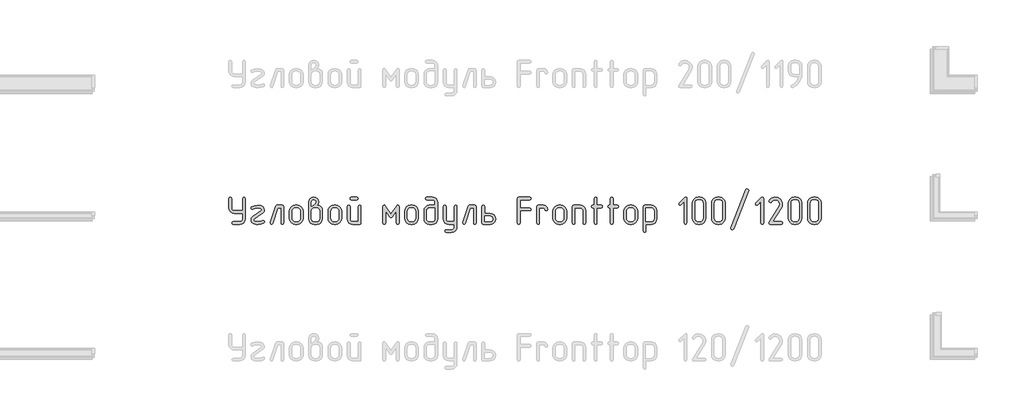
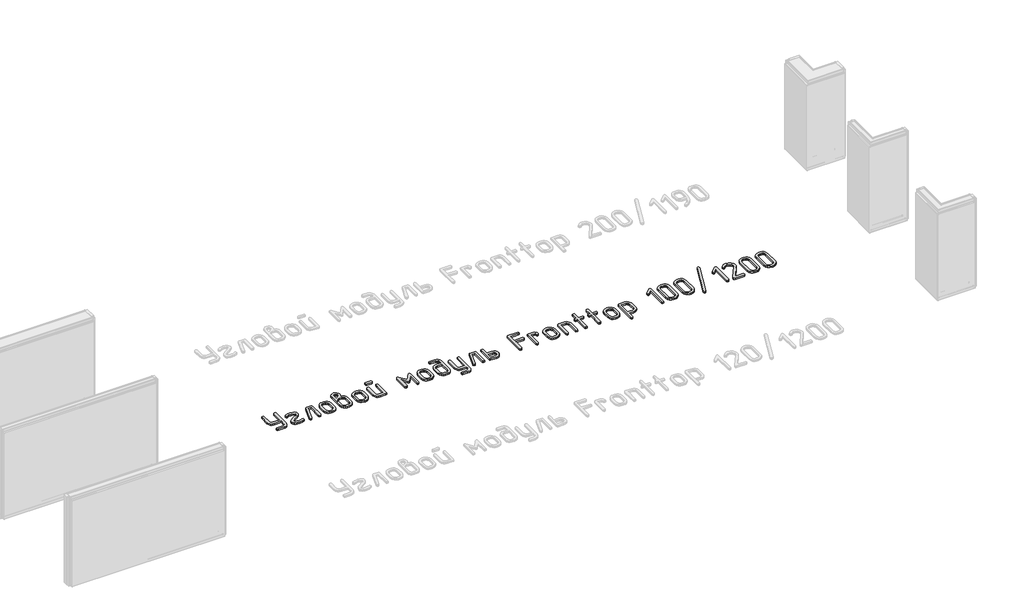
# One storey, part 26 of 37: 1 proxy.
"""IFC4 building model written with IfcOpenShell, lengths in millimetres."""

from ifc_helpers import new_model, si_unit, origin, origin_with_axes, place, context, project, spatial, polyline, outline, extrude, element, save

model = new_model("IFC4")

# Units and contexts
model_context = context("Model", 3, world=origin())
ifc_project = project(units=[si_unit("LENGTHUNIT", "METRE", prefix="MILLI")], contexts=[model_context])

# Site, building, storey
site = spatial("IfcSite", under=ifc_project)
building = spatial("IfcBuilding", under=site)
storey = spatial("IfcBuildingStorey", under=building, Name="Этаж 01", Elevation=0.0)

# Proxy
placement = place(None, origin())
element("IfcBuildingElementProxy", 1, Name="300 мм ГОСТ 2.304", ObjectType="300 мм ГОСТ 2.304", at=placement, inside=storey, context=model_context, shape_type="SweptSolid", body=[
    extrude(outline(polyline([(64282.5947081, -31108.7261154), (64192.9398643, -31108.7261154), (64169.869135, -31104.3522505), (64150.5152523, -31091.2306559), (64137.3936577, -31071.8767732), (64133.0197928, -31048.8060439), (64133.0197928, -30944.2838139), (64137.4124296, -30933.1332743), (64148.3377058, -30928.9659009), (64158.6247356, -30932.9080109), (64163.205092, -30944.2838139), (64163.205092, -31048.8060439), (64165.3357086, -31060.4540402), (64171.7275583, -31070.0183499), (64181.2918679, -31076.4101996), (64192.9398643, -31078.5408162), (64282.5947081, -31078.5408162), (64282.5947081, -30944.2838139), (64286.949801, -30933.1332743), (64297.4620942, -30928.9659009), (64307.9368436, -30932.9080109), (64312.3294804, -30944.2838139), (64312.3294804, -31168.19566), (64307.9556155, -31191.6042844), (64294.8340209, -31211.0707988), (64275.8180333, -31223.8544983), (64252.8599358, -31228.1157314), (64178.0724781, -31228.1157314), (64167.147202, -31223.7606385), (64163.205092, -31213.2483453), (64166.9219385, -31202.736052), (64178.0724781, -31198.3809591), (64252.8599358, -31198.3809591), (64264.2263528, -31196.1940267), (64273.8469783, -31189.6332294), (64280.4077756, -31179.8999722), (64282.5947081, -31168.19566), (64282.5947081, -31108.7261154)])), origin_with_axes(), (0.0, 0.0, 1.0), 20.0),
    extrude(outline(polyline([(64514.9914765, -31214.524838), (64485.4444237, -31225.0746752), (64451.6173658, -31228.5662583), (64430.8180428, -31227.4774851), (64413.0973199, -31224.5866044), (64396.8408093, -31219.4524755), (64384.8643037, -31209.3062353), (64377.4869265, -31195.6496401), (64375.0278008, -31179.984446), (64378.9699108, -31160.7619669), (64391.2467675, -31144.618088), (64486.5331969, -31078.991343), (64491.4139045, -31069.8306304), (64487.5844263, -31060.4071103), (64476.0959915, -31054.0621905), (64442.3815653, -31049.7070976), (64416.2510079, -31052.4290307), (64397.32888, -31060.5948299), (64388.1681673, -31064.1239569), (64377.693418, -31059.5436005), (64373.3007812, -31048.355517), (64379.4579815, -31037.0172579), (64408.0664367, -31024.777945), (64445.0096386, -31020.4228521), (64450.2657853, -31020.4228521), (64479.1370478, -31023.9144352), (64501.85111, -31033.7509382), (64516.7184961, -31049.0313073), (64521.9746427, -31068.9295767), (64517.7134096, -31086.6315276), (64504.9297101, -31102.193476), (64409.5681929, -31168.19566), (64404.3871341, -31179.6090069), (64408.1039806, -31189.8584928), (64417.9029396, -31195.7528858), (64434.3096259, -31197.5174493), (64451.9928049, -31198.3809591), (64478.4612575, -31196.2034127), (64501.0251441, -31187.8686659), (64508.4588371, -31186.1416463), (64519.1588499, -31190.7220026), (64523.3262233, -31201.9100861), (64521.2425366, -31209.1936036), (64514.9914765, -31214.524838)])), origin_with_axes(), (0.0, 0.0, 1.0), 20.0),
    extrude(outline(polyline([(64734.3229662, -31213.2483453), (64730.1555928, -31224.3988849), (64719.45558, -31228.1157314), (64708.9432868, -31224.1736215), (64704.5881939, -31213.2483453), (64704.5881939, -31048.8060439), (64670.0478018, -31048.8060439), (64614.0322964, -31218.0539651), (64608.5884303, -31225.4876581), (64600.5164908, -31228.1157314), (64589.7789341, -31224.1736215), (64585.1985778, -31213.6988721), (64586.0996315, -31208.4427255), (64645.1186493, -31029.133038), (64650.4498837, -31021.5867132), (64659.5355086, -31019.0712716), (64719.45558, -31019.0712716), (64730.6061197, -31022.7881181), (64734.3229662, -31033.9386577), (64734.3229662, -31213.2483453)])), origin_with_axes(), (0.0, 0.0, 1.0), 20.0),
    extrude(outline(polyline([(64945.7702359, -31162.4889865), (64940.9646162, -31187.9812976), (64926.5477569, -31209.3437792), (64905.5231704, -31223.4227434), (64880.143491, -31228.1157314), (64862.1975047, -31228.1157314), (64836.7615094, -31223.4227434), (64815.4177998, -31209.3437792), (64801.0009405, -31187.9812976), (64796.1953207, -31162.4889865), (64796.1953207, -31084.6980165), (64801.0009405, -31059.5436005), (64815.4177998, -31038.2937506), (64837.1744924, -31023.8768913), (64862.1975047, -31019.0712716), (64880.143491, -31019.0712716), (64905.288521, -31023.8862773), (64926.510213, -31038.3312945), (64940.9552302, -31059.5529865), (64945.7702359, -31084.6980165), (64945.7702359, -31162.4889865)]), holes=[polyline([(64916.0354636, -31162.4889865), (64916.0354636, -31084.6980165), (64913.4073903, -31070.9194036), (64905.5231704, -31059.3183371), (64893.9221039, -31051.4341172), (64880.143491, -31048.8060439), (64862.1975047, -31048.8060439), (64848.4282777, -31051.4341172), (64836.8553692, -31059.3183371), (64828.9993072, -31070.9194036), (64826.3806199, -31084.6980165), (64826.3806199, -31162.4889865), (64828.9993072, -31176.2675994), (64836.8553692, -31187.8686659), (64848.4282777, -31195.7528858), (64862.1975047, -31198.3809591), (64880.143491, -31198.3809591), (64893.9221039, -31195.7528858), (64905.5231704, -31187.8686659), (64913.4073903, -31176.2675994), (64916.0354636, -31162.4889865)])]), origin_with_axes(), (0.0, 0.0, 1.0), 20.0),
    extrude(outline(polyline([(65097.2974342, -31019.9723253), (65122.7897453, -31024.2335584), (65142.3501195, -31037.0172579), (65153.5006592, -31055.057104), (65157.2175057, -31078.5408162), (65157.2175057, -31168.19566), (65152.8436408, -31191.6042844), (65139.7220462, -31211.0707988), (65120.5934269, -31223.8544983), (65097.2974342, -31228.1157314), (65067.5626619, -31228.1157314), (65044.4919326, -31223.8544983), (65025.1380499, -31211.0707988), (65012.0164553, -31191.6042844), (65007.6425905, -31168.19566), (65007.6425905, -30983.2543867), (65011.9038236, -30960.3901489), (65024.6875231, -30942.5567943), (65041.4133325, -30932.3636243), (65061.8559884, -30928.9659009), (65081.9607493, -30932.3636243), (65098.573927, -30942.5567943), (65111.0760472, -30960.2775172), (65115.2434206, -30982.8038599), (65111.0760472, -31004.8421318), (65097.2974342, -31019.9723253)]), holes=[polyline([(65127.4827334, -31168.19566), (65127.4827334, -31078.5408162), (65125.295801, -31067.1743991), (65118.7350037, -31057.5537736), (65109.0017464, -31050.9929763), (65097.2974342, -31048.8060439), (65067.5626619, -31048.8060439), (65055.9146656, -31050.9929763), (65046.3503559, -31057.5537736), (65039.9585062, -31067.1743991), (65037.8278896, -31078.5408162), (65037.8278896, -31168.19566), (65039.9585062, -31179.8999722), (65046.3503559, -31189.6332294), (65055.9146656, -31196.1940267), (65067.5626619, -31198.3809591), (65097.2974342, -31198.3809591), (65109.0017464, -31196.1940267), (65118.7350037, -31189.6332294), (65125.295801, -31179.8999722), (65127.4827334, -31168.19566)]), polyline([(65037.8278896, -31029.133038), (65044.8110558, -31025.0032085), (65050.0672025, -31021.248818), (65060.1289688, -31014.0403884), (65067.5626619, -31008.5589783), (65079.8019748, -30997.671246), (65085.5086482, -30983.2543867), (65083.7065408, -30973.1644624), (65078.3002186, -30965.7213834), (65070.4723145, -30961.1316411), (65061.4054616, -30959.601727), (65052.4512404, -30961.1316411), (65044.8110558, -30965.7213834), (65039.5736812, -30973.1644624), (65037.8278896, -30983.2543867), (65037.8278896, -31029.133038)])]), origin_with_axes(), (0.0, 0.0, 1.0), 20.0),
    extrude(outline(polyline([(65368.6647755, -31162.4889865), (65363.8591557, -31187.9812976), (65349.4422964, -31209.3437792), (65328.4177099, -31223.4227434), (65303.0380305, -31228.1157314), (65285.0920442, -31228.1157314), (65259.6560489, -31223.4227434), (65238.3123393, -31209.3437792), (65223.89548, -31187.9812976), (65219.0898602, -31162.4889865), (65219.0898602, -31084.6980165), (65223.89548, -31059.5436005), (65238.3123393, -31038.2937506), (65260.0690319, -31023.8768913), (65285.0920442, -31019.0712716), (65303.0380305, -31019.0712716), (65328.1830605, -31023.8862773), (65349.4047525, -31038.3312945), (65363.8497697, -31059.5529865), (65368.6647755, -31084.6980165), (65368.6647755, -31162.4889865)]), holes=[polyline([(65338.9300032, -31162.4889865), (65338.9300032, -31084.6980165), (65336.3019298, -31070.9194036), (65328.4177099, -31059.3183371), (65316.8166434, -31051.4341172), (65303.0380305, -31048.8060439), (65285.0920442, -31048.8060439), (65271.3228172, -31051.4341172), (65259.7499087, -31059.3183371), (65251.8938467, -31070.9194036), (65249.2751594, -31084.6980165), (65249.2751594, -31162.4889865), (65251.8938467, -31176.2675994), (65259.7499087, -31187.8686659), (65271.3228172, -31195.7528858), (65285.0920442, -31198.3809591), (65303.0380305, -31198.3809591), (65316.8166434, -31195.7528858), (65328.4177099, -31187.8686659), (65336.3019298, -31176.2675994), (65338.9300032, -31162.4889865)])]), origin_with_axes(), (0.0, 0.0, 1.0), 20.0),
    extrude(outline(polyline([(65535.5098868, -30959.1512001), (65475.5898153, -30959.1512001), (65464.6645391, -30954.7961072), (65460.7224291, -30944.2838139), (65464.4392757, -30933.5838012), (65475.5898153, -30928.9659009), (65535.5098868, -30928.9659009), (65546.6604264, -30933.3585378), (65550.3772729, -30944.2838139), (65546.4351629, -30954.5708438), (65535.5098868, -30959.1512001)])), origin_with_axes(), (0.0, 0.0, 1.0), 20.0),
    extrude(outline(polyline([(65580.1120452, -31213.2483453), (65576.3951987, -31224.3988849), (65565.2446591, -31228.1157314), (65490.4572014, -31228.1157314), (65467.3864722, -31223.8544983), (65448.0325894, -31211.0707988), (65434.9109948, -31191.6042844), (65430.53713, -31168.19566), (65430.53713, -31033.9386577), (65434.9297668, -31023.0133815), (65445.855043, -31019.0712716), (65456.1420728, -31022.7881181), (65460.7224291, -31033.9386577), (65460.7224291, -31168.19566), (65462.8530457, -31179.8999722), (65469.2448954, -31189.6332294), (65478.8092051, -31196.1940267), (65490.4572014, -31198.3809591), (65550.3772729, -31198.3809591), (65550.3772729, -31033.9386577), (65554.7323658, -31023.0133815), (65565.2446591, -31019.0712716), (65575.7194084, -31022.7881181), (65580.1120452, -31033.9386577), (65580.1120452, -31213.2483453)])), origin_with_axes(), (0.0, 0.0, 1.0), 20.0),
    extrude(outline(polyline([(65999.1020187, -31213.2483453), (65994.7093818, -31224.1736215), (65984.2346325, -31228.1157314), (65973.4970758, -31224.3988849), (65969.3672464, -31213.2483453), (65969.3672464, -31080.2678358), (65921.6864877, -31147.2461613), (65915.5480594, -31153.1030104), (65909.4471749, -31155.0552934), (65903.121027, -31153.1030104), (65897.207862, -31147.2461613), (65849.9776303, -31080.2678358), (65849.9776303, -31213.2483453), (65845.3972739, -31224.1736215), (65835.1102441, -31228.1157314), (65823.9597045, -31224.3988849), (65819.7923311, -31213.2483453), (65819.7923311, -31033.9386577), (65823.5091776, -31021.0235546), (65832.9326977, -31016.4431983), (65840.666742, -31018.6395167), (65847.349557, -31025.2284719), (65909.4471749, -31112.6306814), (65971.9953197, -31025.2284719), (65978.7532225, -31018.6395167), (65985.9616521, -31016.4431983), (65995.3851721, -31021.0235546), (65999.1020187, -31033.9386577), (65999.1020187, -31213.2483453)])), origin_with_axes(), (0.0, 0.0, 1.0), 20.0),
    extrude(outline(polyline([(66209.6482347, -31162.4889865), (66204.8426149, -31187.9812976), (66190.4257556, -31209.3437792), (66169.4011692, -31223.4227434), (66144.0214898, -31228.1157314), (66126.0755035, -31228.1157314), (66100.6395082, -31223.4227434), (66079.2957985, -31209.3437792), (66064.8789392, -31187.9812976), (66060.0733195, -31162.4889865), (66060.0733195, -31084.6980165), (66064.8789392, -31059.5436005), (66079.2957985, -31038.2937506), (66101.0524911, -31023.8768913), (66126.0755035, -31019.0712716), (66144.0214898, -31019.0712716), (66169.1665198, -31023.8862773), (66190.3882117, -31038.3312945), (66204.833229, -31059.5529865), (66209.6482347, -31084.6980165), (66209.6482347, -31162.4889865)]), holes=[polyline([(66179.9134624, -31162.4889865), (66179.9134624, -31084.6980165), (66177.2853891, -31070.9194036), (66169.4011692, -31059.3183371), (66157.8001027, -31051.4341172), (66144.0214898, -31048.8060439), (66126.0755035, -31048.8060439), (66112.3062765, -31051.4341172), (66100.733368, -31059.3183371), (66092.877306, -31070.9194036), (66090.2586186, -31084.6980165), (66090.2586186, -31162.4889865), (66092.877306, -31176.2675994), (66100.733368, -31187.8686659), (66112.3062765, -31195.7528858), (66126.0755035, -31198.3809591), (66144.0214898, -31198.3809591), (66157.8001027, -31195.7528858), (66169.4011692, -31187.8686659), (66177.2853891, -31176.2675994), (66179.9134624, -31162.4889865)])]), origin_with_axes(), (0.0, 0.0, 1.0), 20.0),
    extrude(outline(polyline([(66391.3607322, -31019.0712716), (66391.3607322, -30988.8859724), (66389.1737997, -30977.2379761), (66382.6130024, -30967.6736664), (66372.8797452, -30961.2818167), (66361.175433, -30959.1512001), (66301.7058884, -30959.1512001), (66290.7806122, -30954.7961072), (66286.8385022, -30944.2838139), (66290.5553488, -30933.5838012), (66301.7058884, -30928.9659009), (66361.175433, -30928.9659009), (66384.4714257, -30933.3397658), (66403.600045, -30946.4613604), (66416.7216396, -30965.8152431), (66421.0955045, -30988.8859724), (66421.0955045, -31168.19566), (66416.7216396, -31191.6042844), (66403.600045, -31211.0707988), (66384.4714257, -31223.8544983), (66361.175433, -31228.1157314), (66331.4406607, -31228.1157314), (66308.3699314, -31223.8544983), (66289.0160487, -31211.0707988), (66275.8944541, -31191.6042844), (66271.5205892, -31168.19566), (66271.5205892, -31078.5408162), (66275.8944541, -31055.8079821), (66289.0160487, -31036.566731), (66308.3699314, -31023.4451364), (66331.4406607, -31019.0712716), (66391.3607322, -31019.0712716)]), holes=[polyline([(66391.3607322, -31048.8060439), (66331.4406607, -31048.8060439), (66319.7926643, -31050.9929763), (66310.2283547, -31057.5537736), (66303.836505, -31067.1743991), (66301.7058884, -31078.5408162), (66301.7058884, -31168.19566), (66303.836505, -31179.8999722), (66310.2283547, -31189.6332294), (66319.7926643, -31196.1940267), (66331.4406607, -31198.3809591), (66361.175433, -31198.3809591), (66372.8797452, -31196.1940267), (66382.6130024, -31189.6332294), (66389.1737997, -31179.8999722), (66391.3607322, -31168.19566), (66391.3607322, -31048.8060439)])]), origin_with_axes(), (0.0, 0.0, 1.0), 20.0),
    extrude(outline(polyline([(66602.8080019, -31228.1157314), (66542.8879304, -31228.1157314), (66519.8172012, -31223.8544983), (66500.4633184, -31211.0707988), (66487.3417238, -31191.6042844), (66482.967859, -31168.19566), (66482.967859, -31033.9386577), (66487.3604958, -31023.0133815), (66498.285772, -31019.0712716), (66508.5728018, -31022.7881181), (66513.1531581, -31033.9386577), (66513.1531581, -31168.19566), (66515.2837747, -31179.8999722), (66521.6756244, -31189.6332294), (66531.2399341, -31196.1940267), (66542.8879304, -31198.3809591), (66602.8080019, -31198.3809591), (66602.8080019, -31033.9386577), (66607.1630948, -31023.0133815), (66617.6753881, -31019.0712716), (66628.1501374, -31022.7881181), (66632.5427742, -31033.9386577), (66632.5427742, -31257.8505038), (66628.2815411, -31281.1464965), (66615.4978416, -31300.2751158), (66596.0313272, -31313.3967104), (66572.6227028, -31317.7705752), (66513.1531581, -31317.7705752), (66502.2278819, -31313.3779384), (66498.285772, -31302.9031891), (66502.0026185, -31292.3908958), (66513.1531581, -31288.0358029), (66572.6227028, -31288.0358029), (66584.327015, -31285.8488705), (66594.0602722, -31279.2880732), (66600.6210695, -31269.554816), (66602.8080019, -31257.8505038), (66602.8080019, -31228.1157314)])), origin_with_axes(), (0.0, 0.0, 1.0), 20.0),
    extrude(outline(polyline([(66843.990044, -31213.2483453), (66839.8226706, -31224.3988849), (66829.1226578, -31228.1157314), (66818.6103646, -31224.1736215), (66814.2552717, -31213.2483453), (66814.2552717, -31048.8060439), (66779.7148796, -31048.8060439), (66723.6993742, -31218.0539651), (66718.255508, -31225.4876581), (66710.1835686, -31228.1157314), (66699.4460119, -31224.1736215), (66694.8656556, -31213.6988721), (66695.7667093, -31208.4427255), (66754.7857271, -31029.133038), (66760.1169615, -31021.5867132), (66769.2025864, -31019.0712716), (66829.1226578, -31019.0712716), (66840.2731974, -31022.7881181), (66843.990044, -31033.9386577), (66843.990044, -31213.2483453)])), origin_with_axes(), (0.0, 0.0, 1.0), 20.0),
    extrude(outline(polyline([(66936.0476976, -31108.7261154), (66995.5172423, -31108.7261154), (67021.0095534, -31113.3252436), (67040.5699276, -31127.1226285), (67051.7204672, -31145.4628258), (67055.4373137, -31168.19566), (67051.8330989, -31190.9472661), (67041.0204544, -31209.3437792), (67021.1221851, -31223.4227434), (66995.5172423, -31228.1157314), (66921.1803115, -31228.1157314), (66909.6918767, -31224.3988849), (66905.8623985, -31213.2483453), (66905.8623985, -31033.9386577), (66910.2550353, -31023.0133815), (66921.1803115, -31019.0712716), (66931.4673413, -31022.7881181), (66936.0476976, -31033.9386577), (66936.0476976, -31108.7261154)]), holes=[polyline([(66936.0476976, -31138.4608877), (66936.0476976, -31198.3809591), (66995.5172423, -31198.3809591), (67008.3009417, -31196.1377108), (67017.8183215, -31189.407966), (67023.7314864, -31179.6183929), (67025.7025414, -31168.19566), (67023.8441182, -31157.1577521), (67018.2688483, -31147.6216003), (67008.6388369, -31140.7510658), (66995.5172423, -31138.4608877), (66936.0476976, -31138.4608877)])]), origin_with_axes(), (0.0, 0.0, 1.0), 20.0),
    extrude(outline(polyline([(67325.3028988, -31048.355517), (67429.8251287, -31048.355517), (67440.9756683, -31052.5228904), (67444.6925149, -31063.2229032), (67440.7504049, -31073.9604598), (67429.8251287, -31078.5408162), (67325.3028988, -31078.5408162), (67325.3028988, -31213.2483453), (67321.1355254, -31224.3988849), (67310.4355126, -31228.1157314), (67299.697956, -31224.1736215), (67295.1175996, -31213.2483453), (67295.1175996, -30944.2838139), (67298.9470779, -30932.7953792), (67310.4355126, -30928.9659009), (67429.8251287, -30928.9659009), (67440.9756683, -30933.3585378), (67444.6925149, -30944.2838139), (67440.7504049, -30954.5708438), (67429.8251287, -30959.1512001), (67325.3028988, -30959.1512001), (67325.3028988, -31048.355517)])), origin_with_axes(), (0.0, 0.0, 1.0), 20.0),
    extrude(outline(polyline([(67626.4050123, -31063.67343), (67622.2376389, -31074.8239697), (67611.5376262, -31078.5408162), (67600.8000695, -31074.5987062), (67596.2197132, -31063.67343), (67592.0523398, -31053.1986807), (67581.352327, -31048.8060439), (67536.7501685, -31048.8060439), (67536.7501685, -31213.2483453), (67532.5827951, -31224.3988849), (67521.8827824, -31228.1157314), (67511.1452257, -31224.1736215), (67506.5648694, -31213.2483453), (67506.5648694, -31033.9386577), (67510.3943476, -31022.7881181), (67521.8827824, -31019.0712716), (67581.352327, -31019.0712716), (67598.8477865, -31022.5628547), (67613.3021897, -31032.1740942), (67622.9134292, -31046.403234), (67626.4050123, -31063.67343)])), origin_with_axes(), (0.0, 0.0, 1.0), 20.0),
    extrude(outline(polyline([(67833.947716, -31162.4889865), (67829.1420963, -31187.9812976), (67814.7252369, -31209.3437792), (67793.7006505, -31223.4227434), (67768.3209711, -31228.1157314), (67750.3749848, -31228.1157314), (67724.9389895, -31223.4227434), (67703.5952798, -31209.3437792), (67689.1784205, -31187.9812976), (67684.3728008, -31162.4889865), (67684.3728008, -31084.6980165), (67689.1784205, -31059.5436005), (67703.5952798, -31038.2937506), (67725.3519725, -31023.8768913), (67750.3749848, -31019.0712716), (67768.3209711, -31019.0712716), (67793.4660011, -31023.8862773), (67814.687693, -31038.3312945), (67829.1327103, -31059.5529865), (67833.947716, -31084.6980165), (67833.947716, -31162.4889865)]), holes=[polyline([(67804.2129437, -31162.4889865), (67804.2129437, -31084.6980165), (67801.5848704, -31070.9194036), (67793.7006505, -31059.3183371), (67782.099584, -31051.4341172), (67768.3209711, -31048.8060439), (67750.3749848, -31048.8060439), (67736.6057578, -31051.4341172), (67725.0328493, -31059.3183371), (67717.1767873, -31070.9194036), (67714.5580999, -31084.6980165), (67714.5580999, -31162.4889865), (67717.1767873, -31176.2675994), (67725.0328493, -31187.8686659), (67736.6057578, -31195.7528858), (67750.3749848, -31198.3809591), (67768.3209711, -31198.3809591), (67782.099584, -31195.7528858), (67793.7006505, -31187.8686659), (67801.5848704, -31176.2675994), (67804.2129437, -31162.4889865)])]), origin_with_axes(), (0.0, 0.0, 1.0), 20.0),
    extrude(outline(polyline([(68045.3949858, -31213.2483453), (68041.2276124, -31224.3988849), (68030.5275996, -31228.1157314), (68020.0153064, -31224.1736215), (68015.6602135, -31213.2483453), (68015.6602135, -31078.5408162), (68013.473281, -31067.1743991), (68006.9124837, -31057.5537736), (67997.1792265, -31050.9929763), (67985.4749143, -31048.8060439), (67926.0053697, -31048.8060439), (67926.0053697, -31213.2483453), (67921.8379963, -31224.3988849), (67911.1379835, -31228.1157314), (67900.4004269, -31224.1736215), (67895.8200705, -31213.2483453), (67895.8200705, -31033.9386577), (67899.6495488, -31022.7881181), (67911.1379835, -31019.0712716), (67985.4749143, -31019.0712716), (68008.770907, -31023.3325047), (68027.8995263, -31036.1162042), (68041.0211209, -31055.4700869), (68045.3949858, -31078.5408162), (68045.3949858, -31213.2483453)])), origin_with_axes(), (0.0, 0.0, 1.0), 20.0),
    extrude(outline(polyline([(68167.1874117, -31019.0712716), (68212.2400971, -31019.0712716), (68223.3906367, -31023.238645), (68227.1074832, -31033.9386577), (68223.1653733, -31044.2256875), (68212.2400971, -31048.8060439), (68167.1874117, -31048.8060439), (68167.1874117, -31213.2483453), (68163.0200384, -31224.3988849), (68152.3200256, -31228.1157314), (68141.8077324, -31224.1736215), (68137.4526394, -31213.2483453), (68137.4526394, -31048.8060439), (68122.5852533, -31048.8060439), (68111.4347137, -31044.450951), (68107.2673403, -31033.9386577), (68111.2094502, -31023.4639084), (68122.5852533, -31019.0712716), (68137.4526394, -31019.0712716), (68137.4526394, -30944.2838139), (68141.8077324, -30933.1332743), (68152.3200256, -30928.9659009), (68162.7947749, -30932.9080109), (68167.1874117, -30944.2838139), (68167.1874117, -31019.0712716)])), origin_with_axes(), (0.0, 0.0, 1.0), 20.0),
    extrude(outline(polyline([(68344.9953431, -31019.0712716), (68390.0480284, -31019.0712716), (68401.1985681, -31023.238645), (68404.9154146, -31033.9386577), (68400.9733046, -31044.2256875), (68390.0480284, -31048.8060439), (68344.9953431, -31048.8060439), (68344.9953431, -31213.2483453), (68340.8279697, -31224.3988849), (68330.127957, -31228.1157314), (68319.6156637, -31224.1736215), (68315.2605708, -31213.2483453), (68315.2605708, -31048.8060439), (68300.3931847, -31048.8060439), (68289.2426451, -31044.450951), (68285.0752717, -31033.9386577), (68289.0173816, -31023.4639084), (68300.3931847, -31019.0712716), (68315.2605708, -31019.0712716), (68315.2605708, -30944.2838139), (68319.6156637, -30933.1332743), (68330.127957, -30928.9659009), (68340.6027063, -30932.9080109), (68344.9953431, -30944.2838139), (68344.9953431, -31019.0712716)])), origin_with_axes(), (0.0, 0.0, 1.0), 20.0),
    extrude(outline(polyline([(68612.4581183, -31162.4889865), (68607.6524985, -31187.9812976), (68593.2356392, -31209.3437792), (68572.2110527, -31223.4227434), (68546.8313734, -31228.1157314), (68528.885387, -31228.1157314), (68503.4493918, -31223.4227434), (68482.1056821, -31209.3437792), (68467.6888228, -31187.9812976), (68462.883203, -31162.4889865), (68462.883203, -31084.6980165), (68467.6888228, -31059.5436005), (68482.1056821, -31038.2937506), (68503.8623747, -31023.8768913), (68528.885387, -31019.0712716), (68546.8313734, -31019.0712716), (68571.9764033, -31023.8862773), (68593.1980953, -31038.3312945), (68607.6431126, -31059.5529865), (68612.4581183, -31084.6980165), (68612.4581183, -31162.4889865)]), holes=[polyline([(68582.723346, -31162.4889865), (68582.723346, -31084.6980165), (68580.0952727, -31070.9194036), (68572.2110527, -31059.3183371), (68560.6099863, -31051.4341172), (68546.8313734, -31048.8060439), (68528.885387, -31048.8060439), (68515.1161601, -31051.4341172), (68503.5432515, -31059.3183371), (68495.6871895, -31070.9194036), (68493.0685022, -31084.6980165), (68493.0685022, -31162.4889865), (68495.6871895, -31176.2675994), (68503.5432515, -31187.8686659), (68515.1161601, -31195.7528858), (68528.885387, -31198.3809591), (68546.8313734, -31198.3809591), (68560.6099863, -31195.7528858), (68572.2110527, -31187.8686659), (68580.0952727, -31176.2675994), (68582.723346, -31162.4889865)])]), origin_with_axes(), (0.0, 0.0, 1.0), 20.0),
    extrude(outline(polyline([(68704.515772, -31228.1157314), (68704.515772, -31302.9031891), (68700.3483986, -31314.0537287), (68689.6483858, -31317.7705752), (68678.9108291, -31313.8284653), (68674.3304728, -31302.9031891), (68674.3304728, -31033.9386577), (68678.1599511, -31022.7881181), (68689.6483858, -31019.0712716), (68763.9853166, -31019.0712716), (68787.2813093, -31023.3325047), (68806.4099286, -31036.1162042), (68819.5315232, -31055.4700869), (68823.9053881, -31078.5408162), (68823.9053881, -31168.19566), (68819.5315232, -31191.6042844), (68806.4099286, -31211.0707988), (68787.2813093, -31223.8544983), (68763.9853166, -31228.1157314), (68704.515772, -31228.1157314)]), holes=[polyline([(68704.515772, -31198.3809591), (68763.9853166, -31198.3809591), (68775.6896288, -31196.1940267), (68785.422886, -31189.6332294), (68791.9836833, -31179.8999722), (68794.1706157, -31168.19566), (68794.1706157, -31078.5408162), (68791.9836833, -31067.1743991), (68785.422886, -31057.5537736), (68775.6896288, -31050.9929763), (68763.9853166, -31048.8060439), (68704.515772, -31048.8060439), (68704.515772, -31198.3809591)])]), origin_with_axes(), (0.0, 0.0, 1.0), 20.0),
    extrude(outline(polyline([(69153.2405177, -31213.2483453), (69149.0731443, -31224.3988849), (69138.3731316, -31228.1157314), (69128.0861018, -31224.1736215), (69123.5057454, -31213.2483453), (69123.5057454, -30980.1757866), (69088.9653533, -31014.2656518), (69078.9035869, -31019.0712716), (69068.1660303, -31014.4909152), (69063.5856739, -31003.7533586), (69068.3912937, -30993.3161531), (69127.8608383, -30933.7715207), (69141.0012049, -30927.2388813), (69149.7489346, -30931.6315182), (69153.2405177, -30944.2838139), (69153.2405177, -31213.2483453)])), origin_with_axes(), (0.0, 0.0, 1.0), 20.0),
    extrude(outline(polyline([(69362.134802, -31162.4889865), (69357.3291822, -31187.9812976), (69342.9123229, -31209.3437792), (69321.8877364, -31223.4227434), (69296.508057, -31228.1157314), (69278.5620707, -31228.1157314), (69253.1260755, -31223.4227434), (69231.7823658, -31209.3437792), (69217.3655065, -31187.9812976), (69212.5598867, -31162.4889865), (69212.5598867, -30995.0431727), (69217.3655065, -30969.8887568), (69231.7823658, -30948.6389069), (69253.313795, -30933.8841524), (69278.5620707, -30928.9659009), (69296.508057, -30928.9659009), (69321.653087, -30933.7809067), (69342.874779, -30948.2259239), (69357.3197962, -30969.5602476), (69362.134802, -30995.0431727), (69362.134802, -31162.4889865)]), holes=[polyline([(69332.4000297, -31162.4889865), (69332.4000297, -30995.0431727), (69329.7719564, -30981.2645598), (69321.8877364, -30969.6634933), (69310.28667, -30961.7792734), (69296.508057, -30959.1512001), (69278.5620707, -30959.1512001), (69264.7928438, -30961.7792734), (69253.2199352, -30969.6634933), (69245.3638732, -30981.2645598), (69242.7451859, -30995.0431727), (69242.7451859, -31162.4889865), (69245.3638732, -31176.2675994), (69253.2199352, -31187.8686659), (69264.7928438, -31195.7528858), (69278.5620707, -31198.3809591), (69296.508057, -31198.3809591), (69310.28667, -31195.7528858), (69321.8877364, -31187.8686659), (69329.7719564, -31176.2675994), (69332.4000297, -31162.4889865)])]), origin_with_axes(), (0.0, 0.0, 1.0), 20.0),
    extrude(outline(polyline([(69573.5820717, -31162.4889865), (69568.776452, -31187.9812976), (69554.3595927, -31209.3437792), (69533.3350062, -31223.4227434), (69507.9553268, -31228.1157314), (69490.0093405, -31228.1157314), (69464.5733452, -31223.4227434), (69443.2296355, -31209.3437792), (69428.8127762, -31187.9812976), (69424.0071565, -31162.4889865), (69424.0071565, -30995.0431727), (69428.8127762, -30969.8887568), (69443.2296355, -30948.6389069), (69464.7610647, -30933.8841524), (69490.0093405, -30928.9659009), (69507.9553268, -30928.9659009), (69533.1003568, -30933.7809067), (69554.3220488, -30948.2259239), (69568.767066, -30969.5602476), (69573.5820717, -30995.0431727), (69573.5820717, -31162.4889865)]), holes=[polyline([(69543.8472994, -31162.4889865), (69543.8472994, -30995.0431727), (69541.2192261, -30981.2645598), (69533.3350062, -30969.6634933), (69521.7339397, -30961.7792734), (69507.9553268, -30959.1512001), (69490.0093405, -30959.1512001), (69476.2401135, -30961.7792734), (69464.667205, -30969.6634933), (69456.811143, -30981.2645598), (69454.1924556, -30995.0431727), (69454.1924556, -31162.4889865), (69456.811143, -31176.2675994), (69464.667205, -31187.8686659), (69476.2401135, -31195.7528858), (69490.0093405, -31198.3809591), (69507.9553268, -31198.3809591), (69521.7339397, -31195.7528858), (69533.3350062, -31187.8686659), (69541.2192261, -31176.2675994), (69543.8472994, -31162.4889865)])]), origin_with_axes(), (0.0, 0.0, 1.0), 20.0),
    extrude(outline(polyline([(69829.1809731, -30859.8851168), (69664.7386717, -31278.4245634), (69659.0695421, -31285.4077296), (69651.2228661, -31288.0358029), (69640.260046, -31283.8684295), (69635.4544262, -31273.1684168), (69636.3554799, -31267.4617433), (69800.7977813, -30848.9973845), (69806.4669109, -30841.9391305), (69814.3135869, -30839.3110572), (69825.276407, -30843.703694), (69830.0820268, -30854.1784433), (69829.1809731, -30859.8851168)])), origin_with_axes(), (0.0, 0.0, 1.0), 20.0),
    extrude(outline(polyline([(69994.223977, -31213.2483453), (69990.0566036, -31224.3988849), (69979.3565908, -31228.1157314), (69969.069561, -31224.1736215), (69964.4892047, -31213.2483453), (69964.4892047, -30980.1757866), (69929.9488126, -31014.2656518), (69919.8870462, -31019.0712716), (69909.1494895, -31014.4909152), (69904.5691332, -31003.7533586), (69909.374753, -30993.3161531), (69968.8442976, -30933.7715207), (69981.9846641, -30927.2388813), (69990.7323939, -30931.6315182), (69994.223977, -30944.2838139), (69994.223977, -31213.2483453)])), origin_with_axes(), (0.0, 0.0, 1.0), 20.0),
    extrude(outline(polyline([(70192.1554411, -31044.450951), (70095.5174311, -31198.3809591), (70188.2508751, -31198.3809591), (70199.4014147, -31202.5483325), (70203.1182612, -31213.2483453), (70199.1761513, -31223.5353751), (70188.2508751, -31228.1157314), (70068.861259, -31228.1157314), (70056.697034, -31225.1685349), (70052.6422923, -31216.3269455), (70056.1714193, -31204.9135985), (70166.4003227, -31029.133038), (70172.0319084, -31006.8319587), (70168.3150618, -30988.3603577), (70157.1645222, -30973.1926204), (70140.3260811, -30962.6615552), (70120.4465837, -30959.1512001), (70108.7516574, -30960.6811142), (70098.1455044, -30965.2708565), (70081.1005718, -30981.9028062), (70076.0884606, -30987.1401809), (70068.861259, -30988.8859724), (70058.3489657, -30984.7561429), (70053.543346, -30974.4691131), (70056.1714193, -30966.1343663), (70068.2042407, -30951.1168046), (70083.2781183, -30939.2529308), (70100.3230509, -30931.5376584), (70118.2690372, -30928.9659009), (70150.2939877, -30934.8790659), (70177.288055, -30952.6185607), (70195.6470243, -30977.9982401), (70200.2367666, -30992.3212397), (70201.7666807, -31007.7330124), (70199.3638708, -31026.5237366), (70192.1554411, -31044.450951)])), origin_with_axes(), (0.0, 0.0, 1.0), 20.0),
    extrude(outline(polyline([(70414.565531, -31162.4889865), (70409.7599112, -31187.9812976), (70395.3430519, -31209.3437792), (70374.3184654, -31223.4227434), (70348.938786, -31228.1157314), (70330.9927997, -31228.1157314), (70305.5568045, -31223.4227434), (70284.2130948, -31209.3437792), (70269.7962355, -31187.9812976), (70264.9906157, -31162.4889865), (70264.9906157, -30995.0431727), (70269.7962355, -30969.8887568), (70284.2130948, -30948.6389069), (70305.744524, -30933.8841524), (70330.9927997, -30928.9659009), (70348.938786, -30928.9659009), (70374.083816, -30933.7809067), (70395.305508, -30948.2259239), (70409.7505252, -30969.5602476), (70414.565531, -30995.0431727), (70414.565531, -31162.4889865)]), holes=[polyline([(70384.8307587, -31162.4889865), (70384.8307587, -30995.0431727), (70382.2026854, -30981.2645598), (70374.3184654, -30969.6634933), (70362.717399, -30961.7792734), (70348.938786, -30959.1512001), (70330.9927997, -30959.1512001), (70317.2235728, -30961.7792734), (70305.6506642, -30969.6634933), (70297.7946022, -30981.2645598), (70295.1759149, -30995.0431727), (70295.1759149, -31162.4889865), (70297.7946022, -31176.2675994), (70305.6506642, -31187.8686659), (70317.2235728, -31195.7528858), (70330.9927997, -31198.3809591), (70348.938786, -31198.3809591), (70362.717399, -31195.7528858), (70374.3184654, -31187.8686659), (70382.2026854, -31176.2675994), (70384.8307587, -31162.4889865)])]), origin_with_axes(), (0.0, 0.0, 1.0), 20.0),
    extrude(outline(polyline([(70626.0128007, -31162.4889865), (70621.207181, -31187.9812976), (70606.7903217, -31209.3437792), (70585.7657352, -31223.4227434), (70560.3860558, -31228.1157314), (70542.4400695, -31228.1157314), (70517.0040742, -31223.4227434), (70495.6603646, -31209.3437792), (70481.2435053, -31187.9812976), (70476.4378855, -31162.4889865), (70476.4378855, -30995.0431727), (70481.2435053, -30969.8887568), (70495.6603646, -30948.6389069), (70517.1917937, -30933.8841524), (70542.4400695, -30928.9659009), (70560.3860558, -30928.9659009), (70585.5310858, -30933.7809067), (70606.7527778, -30948.2259239), (70621.197795, -30969.5602476), (70626.0128007, -30995.0431727), (70626.0128007, -31162.4889865)]), holes=[polyline([(70596.2780284, -31162.4889865), (70596.2780284, -30995.0431727), (70593.6499551, -30981.2645598), (70585.7657352, -30969.6634933), (70574.1646687, -30961.7792734), (70560.3860558, -30959.1512001), (70542.4400695, -30959.1512001), (70528.6708425, -30961.7792734), (70517.097934, -30969.6634933), (70509.241872, -30981.2645598), (70506.6231847, -30995.0431727), (70506.6231847, -31162.4889865), (70509.241872, -31176.2675994), (70517.097934, -31187.8686659), (70528.6708425, -31195.7528858), (70542.4400695, -31198.3809591), (70560.3860558, -31198.3809591), (70574.1646687, -31195.7528858), (70585.7657352, -31187.8686659), (70593.6499551, -31176.2675994), (70596.2780284, -31162.4889865)])]), origin_with_axes(), (0.0, 0.0, 1.0), 20.0),
])

save(model, "model.ifc")
